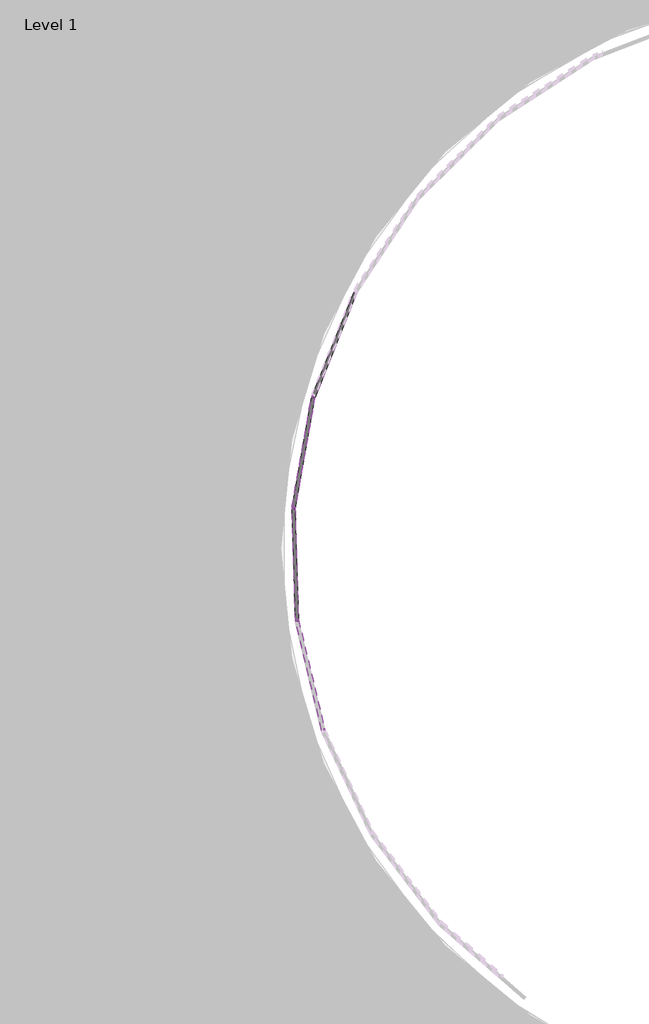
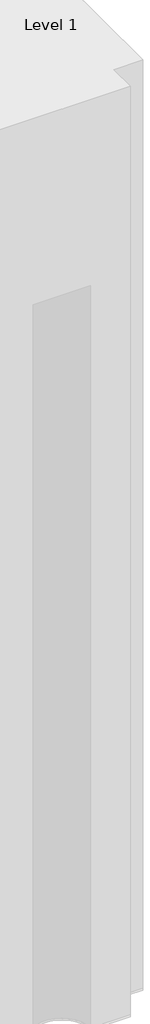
# One storey, part 12 of 20: 123 plates.
"""IFC4 building model written with IfcOpenShell, lengths in millimetres."""

from ifc_helpers import new_model, si_unit, origin, place, context, project, spatial, transform, mapped, element, save
from components import system_panel_glazed_d77d1ebf

model = new_model("IFC4")

# Units and contexts
model_context = context("Model", 3, world=origin())
ifc_project = project(units=[si_unit("LENGTHUNIT", "METRE", prefix="MILLI")], contexts=[model_context])

# Site, building, storey
site = spatial("IfcSite", under=ifc_project)
building = spatial("IfcBuilding", under=site)
storey = spatial("IfcBuildingStorey", under=building, Name="Level 1", Elevation=0.0)

# Plates
placement = place(None, origin())
system_panel_glazed_shape = system_panel_glazed_d77d1ebf(model_context)
element("IfcPlate", 1, ObjectType="System Panel : Glazed", at=placement, inside=storey, context=model_context, shape_type="MappedRepresentation", body=[
    mapped(system_panel_glazed_shape, transform((14455.7045003, -7223.0371257, 48768.0), x_axis=(0.23385091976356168, -0.9722724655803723, 0.0), y_axis=(0.9722724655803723, 0.23385091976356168, 0.0), z_axis=(0.0, 0.0, 1.0))),
])
element("IfcPlate", 2, ObjectType="System Panel : Glazed", at=placement, inside=storey, context=model_context, shape_type="MappedRepresentation", body=[
    mapped(system_panel_glazed_shape, transform((14455.7045003, -7223.0371257, 51816.0), x_axis=(0.23385091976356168, -0.9722724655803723, 0.0), y_axis=(0.9722724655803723, 0.23385091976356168, 0.0), z_axis=(0.0, 0.0, 1.0))),
])
element("IfcPlate", 3, ObjectType="System Panel : Glazed", at=placement, inside=storey, context=model_context, shape_type="MappedRepresentation", body=[
    mapped(system_panel_glazed_shape, transform((14455.7045003, -7223.0371257, 54864.0), x_axis=(0.23385091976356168, -0.9722724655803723, 0.0), y_axis=(0.9722724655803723, 0.23385091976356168, 0.0), z_axis=(0.0, 0.0, 1.0))),
])
element("IfcPlate", 4, ObjectType="System Panel : Glazed", at=placement, inside=storey, context=model_context, shape_type="MappedRepresentation", body=[
    mapped(system_panel_glazed_shape, transform((14455.7045003, -7223.0371257, 57912.0), x_axis=(0.23385091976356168, -0.9722724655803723, 0.0), y_axis=(0.9722724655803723, 0.23385091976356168, 0.0), z_axis=(0.0, 0.0, 1.0))),
])
element("IfcPlate", 5, ObjectType="System Panel : Glazed", at=placement, inside=storey, context=model_context, shape_type="MappedRepresentation", body=[
    mapped(system_panel_glazed_shape, transform((14455.7045003, -7223.0371257, 60960.0), x_axis=(0.23385091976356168, -0.9722724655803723, 0.0), y_axis=(0.9722724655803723, 0.23385091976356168, 0.0), z_axis=(0.0, 0.0, 1.0))),
])
element("IfcPlate", 6, ObjectType="System Panel : Glazed", at=placement, inside=storey, context=model_context, shape_type="MappedRepresentation", body=[
    mapped(system_panel_glazed_shape, transform((14455.7045003, -7223.0371257, 64008.0), x_axis=(0.23385091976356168, -0.9722724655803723, 0.0), y_axis=(0.9722724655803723, 0.23385091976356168, 0.0), z_axis=(0.0, 0.0, 1.0))),
])
element("IfcPlate", 7, ObjectType="System Panel : Glazed", at=placement, inside=storey, context=model_context, shape_type="MappedRepresentation", body=[
    mapped(system_panel_glazed_shape, transform((14455.7045003, -7223.0371257, 67056.0), x_axis=(0.23385091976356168, -0.9722724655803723, 0.0), y_axis=(0.9722724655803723, 0.23385091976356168, 0.0), z_axis=(0.0, 0.0, 1.0))),
])
element("IfcPlate", 8, ObjectType="System Panel : Glazed", at=placement, inside=storey, context=model_context, shape_type="MappedRepresentation", body=[
    mapped(system_panel_glazed_shape, transform((14455.7045003, -7223.0371257, 70104.0), x_axis=(0.23385091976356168, -0.9722724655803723, 0.0), y_axis=(0.9722724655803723, 0.23385091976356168, 0.0), z_axis=(0.0, 0.0, 1.0))),
])
element("IfcPlate", 9, ObjectType="System Panel : Glazed", at=placement, inside=storey, context=model_context, shape_type="MappedRepresentation", body=[
    mapped(system_panel_glazed_shape, transform((14455.7045003, -7223.0371257, 73152.0), x_axis=(0.23385091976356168, -0.9722724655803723, 0.0), y_axis=(0.9722724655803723, 0.23385091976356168, 0.0), z_axis=(0.0, 0.0, 1.0))),
])
element("IfcPlate", 10, ObjectType="System Panel : Glazed", at=placement, inside=storey, context=model_context, shape_type="MappedRepresentation", body=[
    mapped(system_panel_glazed_shape, transform((14455.7045003, -7223.0371257, 76200.0), x_axis=(0.23385091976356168, -0.9722724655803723, 0.0), y_axis=(0.9722724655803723, 0.23385091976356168, 0.0), z_axis=(0.0, 0.0, 1.0))),
])
element("IfcPlate", 11, ObjectType="System Panel : Glazed", at=placement, inside=storey, context=model_context, shape_type="MappedRepresentation", body=[
    mapped(system_panel_glazed_shape, transform((14455.7045003, -7223.0371257, 79248.0), x_axis=(0.23385091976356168, -0.9722724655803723, 0.0), y_axis=(0.9722724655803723, 0.23385091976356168, 0.0), z_axis=(0.0, 0.0, 1.0))),
])
element("IfcPlate", 12, ObjectType="System Panel : Glazed", at=placement, inside=storey, context=model_context, shape_type="MappedRepresentation", body=[
    mapped(system_panel_glazed_shape, transform((14455.7045003, -7223.0371257, 82296.0), x_axis=(0.23385091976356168, -0.9722724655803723, 0.0), y_axis=(0.9722724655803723, 0.23385091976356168, 0.0), z_axis=(0.0, 0.0, 1.0))),
])
element("IfcPlate", 13, ObjectType="System Panel : Glazed", at=placement, inside=storey, context=model_context, shape_type="MappedRepresentation", body=[
    mapped(system_panel_glazed_shape, transform((14455.7045003, -7223.0371257, 85344.0), x_axis=(0.23385091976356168, -0.9722724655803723, 0.0), y_axis=(0.9722724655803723, 0.23385091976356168, 0.0), z_axis=(0.0, 0.0, 1.0))),
])
element("IfcPlate", 14, ObjectType="System Panel : Glazed", at=placement, inside=storey, context=model_context, shape_type="MappedRepresentation", body=[
    mapped(system_panel_glazed_shape, transform((14455.7045003, -7223.0371257, 88392.0), x_axis=(0.23385091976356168, -0.9722724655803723, 0.0), y_axis=(0.9722724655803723, 0.23385091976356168, 0.0), z_axis=(0.0, 0.0, 1.0))),
])
element("IfcPlate", 15, ObjectType="System Panel : Glazed", at=placement, inside=storey, context=model_context, shape_type="MappedRepresentation", body=[
    mapped(system_panel_glazed_shape, transform((14455.7045003, -7223.0371257, 91440.0), x_axis=(0.23385091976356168, -0.9722724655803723, 0.0), y_axis=(0.9722724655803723, 0.23385091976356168, 0.0), z_axis=(0.0, 0.0, 1.0))),
])
element("IfcPlate", 16, ObjectType="System Panel : Glazed", at=placement, inside=storey, context=model_context, shape_type="MappedRepresentation", body=[
    mapped(system_panel_glazed_shape, transform((14455.7045003, -7223.0371257, 94488.0), x_axis=(0.23385091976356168, -0.9722724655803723, 0.0), y_axis=(0.9722724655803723, 0.23385091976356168, 0.0), z_axis=(0.0, 0.0, 1.0))),
])
element("IfcPlate", 17, ObjectType="System Panel : Glazed", at=placement, inside=storey, context=model_context, shape_type="MappedRepresentation", body=[
    mapped(system_panel_glazed_shape, transform((14455.7045003, -7223.0371257, 97536.0), x_axis=(0.23385091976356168, -0.9722724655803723, 0.0), y_axis=(0.9722724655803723, 0.23385091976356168, 0.0), z_axis=(0.0, 0.0, 1.0))),
])
element("IfcPlate", 18, ObjectType="System Panel : Glazed", at=placement, inside=storey, context=model_context, shape_type="MappedRepresentation", body=[
    mapped(system_panel_glazed_shape, transform((14455.7045003, -7223.0371257, 100584.0), x_axis=(0.23385091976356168, -0.9722724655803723, 0.0), y_axis=(0.9722724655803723, 0.23385091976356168, 0.0), z_axis=(0.0, 0.0, 1.0))),
])
element("IfcPlate", 19, ObjectType="System Panel : Glazed", at=placement, inside=storey, context=model_context, shape_type="MappedRepresentation", body=[
    mapped(system_panel_glazed_shape, transform((14335.0257438, -6321.5213272, 0.0), x_axis=(0.03010086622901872, -0.9995468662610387, 0.0), y_axis=(0.9995468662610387, 0.03010086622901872, 0.0), z_axis=(0.0, 0.0, 1.0))),
])
element("IfcPlate", 20, ObjectType="System Panel : Glazed", at=placement, inside=storey, context=model_context, shape_type="MappedRepresentation", body=[
    mapped(system_panel_glazed_shape, transform((14335.0257438, -6321.5213272, 3048.0), x_axis=(0.03010086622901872, -0.9995468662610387, 0.0), y_axis=(0.9995468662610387, 0.03010086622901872, 0.0), z_axis=(0.0, 0.0, 1.0))),
])
element("IfcPlate", 21, ObjectType="System Panel : Glazed", at=placement, inside=storey, context=model_context, shape_type="MappedRepresentation", body=[
    mapped(system_panel_glazed_shape, transform((14335.0257438, -6321.5213272, 6096.0), x_axis=(0.03010086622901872, -0.9995468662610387, 0.0), y_axis=(0.9995468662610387, 0.03010086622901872, 0.0), z_axis=(0.0, 0.0, 1.0))),
])
element("IfcPlate", 22, ObjectType="System Panel : Glazed", at=placement, inside=storey, context=model_context, shape_type="MappedRepresentation", body=[
    mapped(system_panel_glazed_shape, transform((14335.0257438, -6321.5213272, 9144.0), x_axis=(0.03010086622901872, -0.9995468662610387, 0.0), y_axis=(0.9995468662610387, 0.03010086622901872, 0.0), z_axis=(0.0, 0.0, 1.0))),
])
element("IfcPlate", 23, ObjectType="System Panel : Glazed", at=placement, inside=storey, context=model_context, shape_type="MappedRepresentation", body=[
    mapped(system_panel_glazed_shape, transform((14335.0257438, -6321.5213272, 12192.0), x_axis=(0.03010086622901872, -0.9995468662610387, 0.0), y_axis=(0.9995468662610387, 0.03010086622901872, 0.0), z_axis=(0.0, 0.0, 1.0))),
])
element("IfcPlate", 24, ObjectType="System Panel : Glazed", at=placement, inside=storey, context=model_context, shape_type="MappedRepresentation", body=[
    mapped(system_panel_glazed_shape, transform((14335.0257438, -6321.5213272, 15240.0), x_axis=(0.03010086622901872, -0.9995468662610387, 0.0), y_axis=(0.9995468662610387, 0.03010086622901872, 0.0), z_axis=(0.0, 0.0, 1.0))),
])
element("IfcPlate", 25, ObjectType="System Panel : Glazed", at=placement, inside=storey, context=model_context, shape_type="MappedRepresentation", body=[
    mapped(system_panel_glazed_shape, transform((14335.0257438, -6321.5213272, 18288.0), x_axis=(0.03010086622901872, -0.9995468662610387, 0.0), y_axis=(0.9995468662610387, 0.03010086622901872, 0.0), z_axis=(0.0, 0.0, 1.0))),
])
element("IfcPlate", 26, ObjectType="System Panel : Glazed", at=placement, inside=storey, context=model_context, shape_type="MappedRepresentation", body=[
    mapped(system_panel_glazed_shape, transform((14335.0257438, -6321.5213272, 21336.0), x_axis=(0.03010086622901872, -0.9995468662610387, 0.0), y_axis=(0.9995468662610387, 0.03010086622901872, 0.0), z_axis=(0.0, 0.0, 1.0))),
])
element("IfcPlate", 27, ObjectType="System Panel : Glazed", at=placement, inside=storey, context=model_context, shape_type="MappedRepresentation", body=[
    mapped(system_panel_glazed_shape, transform((14335.0257438, -6321.5213272, 24384.0), x_axis=(0.03010086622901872, -0.9995468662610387, 0.0), y_axis=(0.9995468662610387, 0.03010086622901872, 0.0), z_axis=(0.0, 0.0, 1.0))),
])
element("IfcPlate", 28, ObjectType="System Panel : Glazed", at=placement, inside=storey, context=model_context, shape_type="MappedRepresentation", body=[
    mapped(system_panel_glazed_shape, transform((14335.0257438, -6321.5213272, 27432.0), x_axis=(0.03010086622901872, -0.9995468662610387, 0.0), y_axis=(0.9995468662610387, 0.03010086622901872, 0.0), z_axis=(0.0, 0.0, 1.0))),
])
element("IfcPlate", 29, ObjectType="System Panel : Glazed", at=placement, inside=storey, context=model_context, shape_type="MappedRepresentation", body=[
    mapped(system_panel_glazed_shape, transform((14335.0257438, -6321.5213272, 30480.0), x_axis=(0.03010086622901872, -0.9995468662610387, 0.0), y_axis=(0.9995468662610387, 0.03010086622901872, 0.0), z_axis=(0.0, 0.0, 1.0))),
])
element("IfcPlate", 30, ObjectType="System Panel : Glazed", at=placement, inside=storey, context=model_context, shape_type="MappedRepresentation", body=[
    mapped(system_panel_glazed_shape, transform((14335.0257438, -6321.5213272, 33528.0), x_axis=(0.03010086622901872, -0.9995468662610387, 0.0), y_axis=(0.9995468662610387, 0.03010086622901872, 0.0), z_axis=(0.0, 0.0, 1.0))),
])
element("IfcPlate", 31, ObjectType="System Panel : Glazed", at=placement, inside=storey, context=model_context, shape_type="MappedRepresentation", body=[
    mapped(system_panel_glazed_shape, transform((14335.0257438, -6321.5213272, 36576.0), x_axis=(0.03010086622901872, -0.9995468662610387, 0.0), y_axis=(0.9995468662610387, 0.03010086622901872, 0.0), z_axis=(0.0, 0.0, 1.0))),
])
element("IfcPlate", 32, ObjectType="System Panel : Glazed", at=placement, inside=storey, context=model_context, shape_type="MappedRepresentation", body=[
    mapped(system_panel_glazed_shape, transform((14335.0257438, -6321.5213272, 39624.0), x_axis=(0.03010086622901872, -0.9995468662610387, 0.0), y_axis=(0.9995468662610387, 0.03010086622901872, 0.0), z_axis=(0.0, 0.0, 1.0))),
])
element("IfcPlate", 33, ObjectType="System Panel : Glazed", at=placement, inside=storey, context=model_context, shape_type="MappedRepresentation", body=[
    mapped(system_panel_glazed_shape, transform((14335.0257438, -6321.5213272, 42672.0), x_axis=(0.03010086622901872, -0.9995468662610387, 0.0), y_axis=(0.9995468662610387, 0.03010086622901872, 0.0), z_axis=(0.0, 0.0, 1.0))),
])
element("IfcPlate", 34, ObjectType="System Panel : Glazed", at=placement, inside=storey, context=model_context, shape_type="MappedRepresentation", body=[
    mapped(system_panel_glazed_shape, transform((14335.0257438, -6321.5213272, 45720.0), x_axis=(0.03010086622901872, -0.9995468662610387, 0.0), y_axis=(0.9995468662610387, 0.03010086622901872, 0.0), z_axis=(0.0, 0.0, 1.0))),
])
element("IfcPlate", 35, ObjectType="System Panel : Glazed", at=placement, inside=storey, context=model_context, shape_type="MappedRepresentation", body=[
    mapped(system_panel_glazed_shape, transform((14335.0257438, -6321.5213272, 48768.0), x_axis=(0.03010086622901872, -0.9995468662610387, 0.0), y_axis=(0.9995468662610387, 0.03010086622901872, 0.0), z_axis=(0.0, 0.0, 1.0))),
])
element("IfcPlate", 36, ObjectType="System Panel : Glazed", at=placement, inside=storey, context=model_context, shape_type="MappedRepresentation", body=[
    mapped(system_panel_glazed_shape, transform((14335.0257438, -6321.5213272, 51816.0), x_axis=(0.03010086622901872, -0.9995468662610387, 0.0), y_axis=(0.9995468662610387, 0.03010086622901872, 0.0), z_axis=(0.0, 0.0, 1.0))),
])
element("IfcPlate", 37, ObjectType="System Panel : Glazed", at=placement, inside=storey, context=model_context, shape_type="MappedRepresentation", body=[
    mapped(system_panel_glazed_shape, transform((14335.0257438, -6321.5213272, 54864.0), x_axis=(0.03010086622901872, -0.9995468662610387, 0.0), y_axis=(0.9995468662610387, 0.03010086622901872, 0.0), z_axis=(0.0, 0.0, 1.0))),
])
element("IfcPlate", 38, ObjectType="System Panel : Glazed", at=placement, inside=storey, context=model_context, shape_type="MappedRepresentation", body=[
    mapped(system_panel_glazed_shape, transform((14335.0257438, -6321.5213272, 57912.0), x_axis=(0.03010086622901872, -0.9995468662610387, 0.0), y_axis=(0.9995468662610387, 0.03010086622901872, 0.0), z_axis=(0.0, 0.0, 1.0))),
])
element("IfcPlate", 39, ObjectType="System Panel : Glazed", at=placement, inside=storey, context=model_context, shape_type="MappedRepresentation", body=[
    mapped(system_panel_glazed_shape, transform((14335.0257438, -6321.5213272, 60960.0), x_axis=(0.03010086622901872, -0.9995468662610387, 0.0), y_axis=(0.9995468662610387, 0.03010086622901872, 0.0), z_axis=(0.0, 0.0, 1.0))),
])
element("IfcPlate", 40, ObjectType="System Panel : Glazed", at=placement, inside=storey, context=model_context, shape_type="MappedRepresentation", body=[
    mapped(system_panel_glazed_shape, transform((14335.0257438, -6321.5213272, 64008.0), x_axis=(0.03010086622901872, -0.9995468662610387, 0.0), y_axis=(0.9995468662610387, 0.03010086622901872, 0.0), z_axis=(0.0, 0.0, 1.0))),
])
element("IfcPlate", 41, ObjectType="System Panel : Glazed", at=placement, inside=storey, context=model_context, shape_type="MappedRepresentation", body=[
    mapped(system_panel_glazed_shape, transform((14335.0257438, -6321.5213272, 67056.0), x_axis=(0.03010086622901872, -0.9995468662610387, 0.0), y_axis=(0.9995468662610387, 0.03010086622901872, 0.0), z_axis=(0.0, 0.0, 1.0))),
])
element("IfcPlate", 42, ObjectType="System Panel : Glazed", at=placement, inside=storey, context=model_context, shape_type="MappedRepresentation", body=[
    mapped(system_panel_glazed_shape, transform((14335.0257438, -6321.5213272, 70104.0), x_axis=(0.03010086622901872, -0.9995468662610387, 0.0), y_axis=(0.9995468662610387, 0.03010086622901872, 0.0), z_axis=(0.0, 0.0, 1.0))),
])
element("IfcPlate", 43, ObjectType="System Panel : Glazed", at=placement, inside=storey, context=model_context, shape_type="MappedRepresentation", body=[
    mapped(system_panel_glazed_shape, transform((14335.0257438, -6321.5213272, 73152.0), x_axis=(0.03010086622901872, -0.9995468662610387, 0.0), y_axis=(0.9995468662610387, 0.03010086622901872, 0.0), z_axis=(0.0, 0.0, 1.0))),
])
element("IfcPlate", 44, ObjectType="System Panel : Glazed", at=placement, inside=storey, context=model_context, shape_type="MappedRepresentation", body=[
    mapped(system_panel_glazed_shape, transform((14335.0257438, -6321.5213272, 76200.0), x_axis=(0.03010086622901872, -0.9995468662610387, 0.0), y_axis=(0.9995468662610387, 0.03010086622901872, 0.0), z_axis=(0.0, 0.0, 1.0))),
])
element("IfcPlate", 45, ObjectType="System Panel : Glazed", at=placement, inside=storey, context=model_context, shape_type="MappedRepresentation", body=[
    mapped(system_panel_glazed_shape, transform((14335.0257438, -6321.5213272, 79248.0), x_axis=(0.03010086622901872, -0.9995468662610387, 0.0), y_axis=(0.9995468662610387, 0.03010086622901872, 0.0), z_axis=(0.0, 0.0, 1.0))),
])
element("IfcPlate", 46, ObjectType="System Panel : Glazed", at=placement, inside=storey, context=model_context, shape_type="MappedRepresentation", body=[
    mapped(system_panel_glazed_shape, transform((14335.0257438, -6321.5213272, 82296.0), x_axis=(0.03010086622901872, -0.9995468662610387, 0.0), y_axis=(0.9995468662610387, 0.03010086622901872, 0.0), z_axis=(0.0, 0.0, 1.0))),
])
element("IfcPlate", 47, ObjectType="System Panel : Glazed", at=placement, inside=storey, context=model_context, shape_type="MappedRepresentation", body=[
    mapped(system_panel_glazed_shape, transform((14335.0257438, -6321.5213272, 85344.0), x_axis=(0.03010086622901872, -0.9995468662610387, 0.0), y_axis=(0.9995468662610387, 0.03010086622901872, 0.0), z_axis=(0.0, 0.0, 1.0))),
])
element("IfcPlate", 48, ObjectType="System Panel : Glazed", at=placement, inside=storey, context=model_context, shape_type="MappedRepresentation", body=[
    mapped(system_panel_glazed_shape, transform((14335.0257438, -6321.5213272, 88392.0), x_axis=(0.03010086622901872, -0.9995468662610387, 0.0), y_axis=(0.9995468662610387, 0.03010086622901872, 0.0), z_axis=(0.0, 0.0, 1.0))),
])
element("IfcPlate", 49, ObjectType="System Panel : Glazed", at=placement, inside=storey, context=model_context, shape_type="MappedRepresentation", body=[
    mapped(system_panel_glazed_shape, transform((14335.0257438, -6321.5213272, 91440.0), x_axis=(0.03010086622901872, -0.9995468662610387, 0.0), y_axis=(0.9995468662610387, 0.03010086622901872, 0.0), z_axis=(0.0, 0.0, 1.0))),
])
element("IfcPlate", 50, ObjectType="System Panel : Glazed", at=placement, inside=storey, context=model_context, shape_type="MappedRepresentation", body=[
    mapped(system_panel_glazed_shape, transform((14335.0257438, -6321.5213272, 94488.0), x_axis=(0.03010086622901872, -0.9995468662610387, 0.0), y_axis=(0.9995468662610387, 0.03010086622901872, 0.0), z_axis=(0.0, 0.0, 1.0))),
])
element("IfcPlate", 51, ObjectType="System Panel : Glazed", at=placement, inside=storey, context=model_context, shape_type="MappedRepresentation", body=[
    mapped(system_panel_glazed_shape, transform((14335.0257438, -6321.5213272, 97536.0), x_axis=(0.03010086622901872, -0.9995468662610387, 0.0), y_axis=(0.9995468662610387, 0.03010086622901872, 0.0), z_axis=(0.0, 0.0, 1.0))),
])
element("IfcPlate", 52, ObjectType="System Panel : Glazed", at=placement, inside=storey, context=model_context, shape_type="MappedRepresentation", body=[
    mapped(system_panel_glazed_shape, transform((14335.0257438, -6321.5213272, 100584.0), x_axis=(0.03010086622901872, -0.9995468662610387, 0.0), y_axis=(0.9995468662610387, 0.03010086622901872, 0.0), z_axis=(0.0, 0.0, 1.0))),
])
element("IfcPlate", 53, ObjectType="System Panel : Glazed", at=placement, inside=storey, context=model_context, shape_type="MappedRepresentation", body=[
    mapped(system_panel_glazed_shape, transform((14401.2375954, -5414.3774092, 0.0), x_axis=(-0.1749211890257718, -0.9845824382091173, 0.0), y_axis=(0.9845824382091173, -0.1749211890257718, 0.0), z_axis=(0.0, 0.0, 1.0))),
])
element("IfcPlate", 54, ObjectType="System Panel : Glazed", at=placement, inside=storey, context=model_context, shape_type="MappedRepresentation", body=[
    mapped(system_panel_glazed_shape, transform((14401.2375954, -5414.3774092, 3048.0), x_axis=(-0.1749211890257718, -0.9845824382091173, 0.0), y_axis=(0.9845824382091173, -0.1749211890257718, 0.0), z_axis=(0.0, 0.0, 1.0))),
])
element("IfcPlate", 55, ObjectType="System Panel : Glazed", at=placement, inside=storey, context=model_context, shape_type="MappedRepresentation", body=[
    mapped(system_panel_glazed_shape, transform((14401.2375954, -5414.3774092, 6096.0), x_axis=(-0.1749211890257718, -0.9845824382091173, 0.0), y_axis=(0.9845824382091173, -0.1749211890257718, 0.0), z_axis=(0.0, 0.0, 1.0))),
])
element("IfcPlate", 56, ObjectType="System Panel : Glazed", at=placement, inside=storey, context=model_context, shape_type="MappedRepresentation", body=[
    mapped(system_panel_glazed_shape, transform((14401.2375954, -5414.3774092, 9144.0), x_axis=(-0.1749211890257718, -0.9845824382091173, 0.0), y_axis=(0.9845824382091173, -0.1749211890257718, 0.0), z_axis=(0.0, 0.0, 1.0))),
])
element("IfcPlate", 57, ObjectType="System Panel : Glazed", at=placement, inside=storey, context=model_context, shape_type="MappedRepresentation", body=[
    mapped(system_panel_glazed_shape, transform((14401.2375954, -5414.3774092, 12192.0), x_axis=(-0.1749211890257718, -0.9845824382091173, 0.0), y_axis=(0.9845824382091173, -0.1749211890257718, 0.0), z_axis=(0.0, 0.0, 1.0))),
])
element("IfcPlate", 58, ObjectType="System Panel : Glazed", at=placement, inside=storey, context=model_context, shape_type="MappedRepresentation", body=[
    mapped(system_panel_glazed_shape, transform((14401.2375954, -5414.3774092, 15240.0), x_axis=(-0.1749211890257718, -0.9845824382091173, 0.0), y_axis=(0.9845824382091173, -0.1749211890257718, 0.0), z_axis=(0.0, 0.0, 1.0))),
])
element("IfcPlate", 59, ObjectType="System Panel : Glazed", at=placement, inside=storey, context=model_context, shape_type="MappedRepresentation", body=[
    mapped(system_panel_glazed_shape, transform((14401.2375954, -5414.3774092, 18288.0), x_axis=(-0.17492118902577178, -0.9845824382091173, 0.0), y_axis=(0.9845824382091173, -0.17492118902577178, 0.0), z_axis=(0.0, 0.0, 1.0))),
])
element("IfcPlate", 60, ObjectType="System Panel : Glazed", at=placement, inside=storey, context=model_context, shape_type="MappedRepresentation", body=[
    mapped(system_panel_glazed_shape, transform((14401.2375954, -5414.3774092, 21336.0), x_axis=(-0.1749211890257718, -0.9845824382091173, 0.0), y_axis=(0.9845824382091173, -0.1749211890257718, 0.0), z_axis=(0.0, 0.0, 1.0))),
])
element("IfcPlate", 61, ObjectType="System Panel : Glazed", at=placement, inside=storey, context=model_context, shape_type="MappedRepresentation", body=[
    mapped(system_panel_glazed_shape, transform((14401.2375954, -5414.3774092, 24384.0), x_axis=(-0.1749211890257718, -0.9845824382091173, 0.0), y_axis=(0.9845824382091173, -0.1749211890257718, 0.0), z_axis=(0.0, 0.0, 1.0))),
])
element("IfcPlate", 62, ObjectType="System Panel : Glazed", at=placement, inside=storey, context=model_context, shape_type="MappedRepresentation", body=[
    mapped(system_panel_glazed_shape, transform((14401.2375954, -5414.3774092, 27432.0), x_axis=(-0.1749211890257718, -0.9845824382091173, 0.0), y_axis=(0.9845824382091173, -0.1749211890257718, 0.0), z_axis=(0.0, 0.0, 1.0))),
])
element("IfcPlate", 63, ObjectType="System Panel : Glazed", at=placement, inside=storey, context=model_context, shape_type="MappedRepresentation", body=[
    mapped(system_panel_glazed_shape, transform((14401.2375954, -5414.3774092, 30480.0), x_axis=(-0.1749211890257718, -0.9845824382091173, 0.0), y_axis=(0.9845824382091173, -0.1749211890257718, 0.0), z_axis=(0.0, 0.0, 1.0))),
])
element("IfcPlate", 64, ObjectType="System Panel : Glazed", at=placement, inside=storey, context=model_context, shape_type="MappedRepresentation", body=[
    mapped(system_panel_glazed_shape, transform((14401.2375954, -5414.3774092, 33528.0), x_axis=(-0.1749211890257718, -0.9845824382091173, 0.0), y_axis=(0.9845824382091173, -0.1749211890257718, 0.0), z_axis=(0.0, 0.0, 1.0))),
])
element("IfcPlate", 65, ObjectType="System Panel : Glazed", at=placement, inside=storey, context=model_context, shape_type="MappedRepresentation", body=[
    mapped(system_panel_glazed_shape, transform((14401.2375954, -5414.3774092, 36576.0), x_axis=(-0.1749211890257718, -0.9845824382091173, 0.0), y_axis=(0.9845824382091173, -0.1749211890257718, 0.0), z_axis=(0.0, 0.0, 1.0))),
])
element("IfcPlate", 66, ObjectType="System Panel : Glazed", at=placement, inside=storey, context=model_context, shape_type="MappedRepresentation", body=[
    mapped(system_panel_glazed_shape, transform((14401.2375954, -5414.3774092, 39624.0), x_axis=(-0.1749211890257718, -0.9845824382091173, 0.0), y_axis=(0.9845824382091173, -0.1749211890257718, 0.0), z_axis=(0.0, 0.0, 1.0))),
])
element("IfcPlate", 67, ObjectType="System Panel : Glazed", at=placement, inside=storey, context=model_context, shape_type="MappedRepresentation", body=[
    mapped(system_panel_glazed_shape, transform((14401.2375954, -5414.3774092, 42672.0), x_axis=(-0.1749211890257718, -0.9845824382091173, 0.0), y_axis=(0.9845824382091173, -0.1749211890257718, 0.0), z_axis=(0.0, 0.0, 1.0))),
])
element("IfcPlate", 68, ObjectType="System Panel : Glazed", at=placement, inside=storey, context=model_context, shape_type="MappedRepresentation", body=[
    mapped(system_panel_glazed_shape, transform((14401.2375954, -5414.3774092, 45720.0), x_axis=(-0.1749211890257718, -0.9845824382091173, 0.0), y_axis=(0.9845824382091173, -0.1749211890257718, 0.0), z_axis=(0.0, 0.0, 1.0))),
])
element("IfcPlate", 69, ObjectType="System Panel : Glazed", at=placement, inside=storey, context=model_context, shape_type="MappedRepresentation", body=[
    mapped(system_panel_glazed_shape, transform((14401.2375954, -5414.3774092, 48768.0), x_axis=(-0.1749211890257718, -0.9845824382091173, 0.0), y_axis=(0.9845824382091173, -0.1749211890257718, 0.0), z_axis=(0.0, 0.0, 1.0))),
])
element("IfcPlate", 70, ObjectType="System Panel : Glazed", at=placement, inside=storey, context=model_context, shape_type="MappedRepresentation", body=[
    mapped(system_panel_glazed_shape, transform((14401.2375954, -5414.3774092, 51816.0), x_axis=(-0.1749211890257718, -0.9845824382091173, 0.0), y_axis=(0.9845824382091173, -0.1749211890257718, 0.0), z_axis=(0.0, 0.0, 1.0))),
])
element("IfcPlate", 71, ObjectType="System Panel : Glazed", at=placement, inside=storey, context=model_context, shape_type="MappedRepresentation", body=[
    mapped(system_panel_glazed_shape, transform((14401.2375954, -5414.3774092, 54864.0), x_axis=(-0.1749211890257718, -0.9845824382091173, 0.0), y_axis=(0.9845824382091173, -0.1749211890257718, 0.0), z_axis=(0.0, 0.0, 1.0))),
])
element("IfcPlate", 72, ObjectType="System Panel : Glazed", at=placement, inside=storey, context=model_context, shape_type="MappedRepresentation", body=[
    mapped(system_panel_glazed_shape, transform((14401.2375954, -5414.3774092, 57912.0), x_axis=(-0.1749211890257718, -0.9845824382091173, 0.0), y_axis=(0.9845824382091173, -0.1749211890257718, 0.0), z_axis=(0.0, 0.0, 1.0))),
])
element("IfcPlate", 73, ObjectType="System Panel : Glazed", at=placement, inside=storey, context=model_context, shape_type="MappedRepresentation", body=[
    mapped(system_panel_glazed_shape, transform((14401.2375954, -5414.3774092, 60960.0), x_axis=(-0.1749211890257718, -0.9845824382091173, 0.0), y_axis=(0.9845824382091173, -0.1749211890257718, 0.0), z_axis=(0.0, 0.0, 1.0))),
])
element("IfcPlate", 74, ObjectType="System Panel : Glazed", at=placement, inside=storey, context=model_context, shape_type="MappedRepresentation", body=[
    mapped(system_panel_glazed_shape, transform((14401.2375954, -5414.3774092, 64008.0), x_axis=(-0.1749211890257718, -0.9845824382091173, 0.0), y_axis=(0.9845824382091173, -0.1749211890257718, 0.0), z_axis=(0.0, 0.0, 1.0))),
])
element("IfcPlate", 75, ObjectType="System Panel : Glazed", at=placement, inside=storey, context=model_context, shape_type="MappedRepresentation", body=[
    mapped(system_panel_glazed_shape, transform((14401.2375954, -5414.3774092, 67056.0), x_axis=(-0.1749211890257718, -0.9845824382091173, 0.0), y_axis=(0.9845824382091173, -0.1749211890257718, 0.0), z_axis=(0.0, 0.0, 1.0))),
])
element("IfcPlate", 76, ObjectType="System Panel : Glazed", at=placement, inside=storey, context=model_context, shape_type="MappedRepresentation", body=[
    mapped(system_panel_glazed_shape, transform((14401.2375954, -5414.3774092, 70104.0), x_axis=(-0.1749211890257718, -0.9845824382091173, 0.0), y_axis=(0.9845824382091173, -0.1749211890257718, 0.0), z_axis=(0.0, 0.0, 1.0))),
])
element("IfcPlate", 77, ObjectType="System Panel : Glazed", at=placement, inside=storey, context=model_context, shape_type="MappedRepresentation", body=[
    mapped(system_panel_glazed_shape, transform((14401.2375954, -5414.3774092, 73152.0), x_axis=(-0.1749211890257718, -0.9845824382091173, 0.0), y_axis=(0.9845824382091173, -0.1749211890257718, 0.0), z_axis=(0.0, 0.0, 1.0))),
])
element("IfcPlate", 78, ObjectType="System Panel : Glazed", at=placement, inside=storey, context=model_context, shape_type="MappedRepresentation", body=[
    mapped(system_panel_glazed_shape, transform((14401.2375954, -5414.3774092, 76200.0), x_axis=(-0.1749211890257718, -0.9845824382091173, 0.0), y_axis=(0.9845824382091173, -0.1749211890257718, 0.0), z_axis=(0.0, 0.0, 1.0))),
])
element("IfcPlate", 79, ObjectType="System Panel : Glazed", at=placement, inside=storey, context=model_context, shape_type="MappedRepresentation", body=[
    mapped(system_panel_glazed_shape, transform((14401.2375954, -5414.3774092, 79248.0), x_axis=(-0.1749211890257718, -0.9845824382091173, 0.0), y_axis=(0.9845824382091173, -0.1749211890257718, 0.0), z_axis=(0.0, 0.0, 1.0))),
])
element("IfcPlate", 80, ObjectType="System Panel : Glazed", at=placement, inside=storey, context=model_context, shape_type="MappedRepresentation", body=[
    mapped(system_panel_glazed_shape, transform((14401.2375954, -5414.3774092, 82296.0), x_axis=(-0.1749211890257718, -0.9845824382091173, 0.0), y_axis=(0.9845824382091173, -0.1749211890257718, 0.0), z_axis=(0.0, 0.0, 1.0))),
])
element("IfcPlate", 81, ObjectType="System Panel : Glazed", at=placement, inside=storey, context=model_context, shape_type="MappedRepresentation", body=[
    mapped(system_panel_glazed_shape, transform((14401.2375954, -5414.3774092, 85344.0), x_axis=(-0.1749211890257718, -0.9845824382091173, 0.0), y_axis=(0.9845824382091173, -0.1749211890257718, 0.0), z_axis=(0.0, 0.0, 1.0))),
])
element("IfcPlate", 82, ObjectType="System Panel : Glazed", at=placement, inside=storey, context=model_context, shape_type="MappedRepresentation", body=[
    mapped(system_panel_glazed_shape, transform((14401.2375954, -5414.3774092, 88392.0), x_axis=(-0.1749211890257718, -0.9845824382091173, 0.0), y_axis=(0.9845824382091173, -0.1749211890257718, 0.0), z_axis=(0.0, 0.0, 1.0))),
])
element("IfcPlate", 83, ObjectType="System Panel : Glazed", at=placement, inside=storey, context=model_context, shape_type="MappedRepresentation", body=[
    mapped(system_panel_glazed_shape, transform((14401.2375954, -5414.3774092, 91440.0), x_axis=(-0.1749211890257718, -0.9845824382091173, 0.0), y_axis=(0.9845824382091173, -0.1749211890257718, 0.0), z_axis=(0.0, 0.0, 1.0))),
])
element("IfcPlate", 84, ObjectType="System Panel : Glazed", at=placement, inside=storey, context=model_context, shape_type="MappedRepresentation", body=[
    mapped(system_panel_glazed_shape, transform((14401.2375954, -5414.3774092, 94488.0), x_axis=(-0.1749211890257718, -0.9845824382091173, 0.0), y_axis=(0.9845824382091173, -0.1749211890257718, 0.0), z_axis=(0.0, 0.0, 1.0))),
])
element("IfcPlate", 85, ObjectType="System Panel : Glazed", at=placement, inside=storey, context=model_context, shape_type="MappedRepresentation", body=[
    mapped(system_panel_glazed_shape, transform((14401.2375954, -5414.3774092, 97536.0), x_axis=(-0.1749211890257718, -0.9845824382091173, 0.0), y_axis=(0.9845824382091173, -0.1749211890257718, 0.0), z_axis=(0.0, 0.0, 1.0))),
])
element("IfcPlate", 86, ObjectType="System Panel : Glazed", at=placement, inside=storey, context=model_context, shape_type="MappedRepresentation", body=[
    mapped(system_panel_glazed_shape, transform((14401.2375954, -5414.3774092, 100584.0), x_axis=(-0.1749211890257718, -0.9845824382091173, 0.0), y_axis=(0.9845824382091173, -0.1749211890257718, 0.0), z_axis=(0.0, 0.0, 1.0))),
])
element("IfcPlate", 87, ObjectType="System Panel : Glazed", at=placement, inside=storey, context=model_context, shape_type="MappedRepresentation", body=[
    mapped(system_panel_glazed_shape, transform((14651.5420762, -4539.9394388, 0.0), x_axis=(-0.37255142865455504, -0.9280115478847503, 0.0), y_axis=(0.9280115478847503, -0.37255142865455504, 0.0), z_axis=(0.0, 0.0, 1.0))),
])
element("IfcPlate", 88, ObjectType="System Panel : Glazed", at=placement, inside=storey, context=model_context, shape_type="MappedRepresentation", body=[
    mapped(system_panel_glazed_shape, transform((14651.5420762, -4539.9394388, 3048.0), x_axis=(-0.37255142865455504, -0.9280115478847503, 0.0), y_axis=(0.9280115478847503, -0.37255142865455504, 0.0), z_axis=(0.0, 0.0, 1.0))),
])
element("IfcPlate", 89, ObjectType="System Panel : Glazed", at=placement, inside=storey, context=model_context, shape_type="MappedRepresentation", body=[
    mapped(system_panel_glazed_shape, transform((14651.5420762, -4539.9394388, 6096.0), x_axis=(-0.37255142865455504, -0.9280115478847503, 0.0), y_axis=(0.9280115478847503, -0.37255142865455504, 0.0), z_axis=(0.0, 0.0, 1.0))),
])
element("IfcPlate", 90, ObjectType="System Panel : Glazed", at=placement, inside=storey, context=model_context, shape_type="MappedRepresentation", body=[
    mapped(system_panel_glazed_shape, transform((14651.5420762, -4539.9394388, 9144.0), x_axis=(-0.37255142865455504, -0.9280115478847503, 0.0), y_axis=(0.9280115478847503, -0.37255142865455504, 0.0), z_axis=(0.0, 0.0, 1.0))),
])
element("IfcPlate", 91, ObjectType="System Panel : Glazed", at=placement, inside=storey, context=model_context, shape_type="MappedRepresentation", body=[
    mapped(system_panel_glazed_shape, transform((14651.5420762, -4539.9394388, 12192.0), x_axis=(-0.37255142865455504, -0.9280115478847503, 0.0), y_axis=(0.9280115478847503, -0.37255142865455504, 0.0), z_axis=(0.0, 0.0, 1.0))),
])
element("IfcPlate", 92, ObjectType="System Panel : Glazed", at=placement, inside=storey, context=model_context, shape_type="MappedRepresentation", body=[
    mapped(system_panel_glazed_shape, transform((14651.5420762, -4539.9394388, 15240.0), x_axis=(-0.37255142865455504, -0.9280115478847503, 0.0), y_axis=(0.9280115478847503, -0.37255142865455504, 0.0), z_axis=(0.0, 0.0, 1.0))),
])
element("IfcPlate", 93, ObjectType="System Panel : Glazed", at=placement, inside=storey, context=model_context, shape_type="MappedRepresentation", body=[
    mapped(system_panel_glazed_shape, transform((14651.5420762, -4539.9394388, 18288.0), x_axis=(-0.372551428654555, -0.9280115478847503, 0.0), y_axis=(0.9280115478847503, -0.372551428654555, 0.0), z_axis=(0.0, 0.0, 1.0))),
])
element("IfcPlate", 94, ObjectType="System Panel : Glazed", at=placement, inside=storey, context=model_context, shape_type="MappedRepresentation", body=[
    mapped(system_panel_glazed_shape, transform((14651.5420762, -4539.9394388, 21336.0), x_axis=(-0.37255142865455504, -0.9280115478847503, 0.0), y_axis=(0.9280115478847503, -0.37255142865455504, 0.0), z_axis=(0.0, 0.0, 1.0))),
])
element("IfcPlate", 95, ObjectType="System Panel : Glazed", at=placement, inside=storey, context=model_context, shape_type="MappedRepresentation", body=[
    mapped(system_panel_glazed_shape, transform((14651.5420762, -4539.9394388, 24384.0), x_axis=(-0.37255142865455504, -0.9280115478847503, 0.0), y_axis=(0.9280115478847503, -0.37255142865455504, 0.0), z_axis=(0.0, 0.0, 1.0))),
])
element("IfcPlate", 96, ObjectType="System Panel : Glazed", at=placement, inside=storey, context=model_context, shape_type="MappedRepresentation", body=[
    mapped(system_panel_glazed_shape, transform((14651.5420762, -4539.9394388, 27432.0), x_axis=(-0.37255142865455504, -0.9280115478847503, 0.0), y_axis=(0.9280115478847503, -0.37255142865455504, 0.0), z_axis=(0.0, 0.0, 1.0))),
])
element("IfcPlate", 97, ObjectType="System Panel : Glazed", at=placement, inside=storey, context=model_context, shape_type="MappedRepresentation", body=[
    mapped(system_panel_glazed_shape, transform((14651.5420762, -4539.9394388, 30480.0), x_axis=(-0.37255142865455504, -0.9280115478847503, 0.0), y_axis=(0.9280115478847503, -0.37255142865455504, 0.0), z_axis=(0.0, 0.0, 1.0))),
])
element("IfcPlate", 98, ObjectType="System Panel : Glazed", at=placement, inside=storey, context=model_context, shape_type="MappedRepresentation", body=[
    mapped(system_panel_glazed_shape, transform((14651.5420762, -4539.9394388, 33528.0), x_axis=(-0.37255142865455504, -0.9280115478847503, 0.0), y_axis=(0.9280115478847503, -0.37255142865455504, 0.0), z_axis=(0.0, 0.0, 1.0))),
])
element("IfcPlate", 99, ObjectType="System Panel : Glazed", at=placement, inside=storey, context=model_context, shape_type="MappedRepresentation", body=[
    mapped(system_panel_glazed_shape, transform((14651.5420762, -4539.9394388, 36576.0), x_axis=(-0.37255142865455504, -0.9280115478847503, 0.0), y_axis=(0.9280115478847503, -0.37255142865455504, 0.0), z_axis=(0.0, 0.0, 1.0))),
])
element("IfcPlate", 100, ObjectType="System Panel : Glazed", at=placement, inside=storey, context=model_context, shape_type="MappedRepresentation", body=[
    mapped(system_panel_glazed_shape, transform((14651.5420762, -4539.9394388, 39624.0), x_axis=(-0.37255142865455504, -0.9280115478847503, 0.0), y_axis=(0.9280115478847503, -0.37255142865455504, 0.0), z_axis=(0.0, 0.0, 1.0))),
])
element("IfcPlate", 101, ObjectType="System Panel : Glazed", at=placement, inside=storey, context=model_context, shape_type="MappedRepresentation", body=[
    mapped(system_panel_glazed_shape, transform((14651.5420762, -4539.9394388, 42672.0), x_axis=(-0.37255142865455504, -0.9280115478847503, 0.0), y_axis=(0.9280115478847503, -0.37255142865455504, 0.0), z_axis=(0.0, 0.0, 1.0))),
])
element("IfcPlate", 102, ObjectType="System Panel : Glazed", at=placement, inside=storey, context=model_context, shape_type="MappedRepresentation", body=[
    mapped(system_panel_glazed_shape, transform((14651.5420762, -4539.9394388, 45720.0), x_axis=(-0.37255142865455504, -0.9280115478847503, 0.0), y_axis=(0.9280115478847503, -0.37255142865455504, 0.0), z_axis=(0.0, 0.0, 1.0))),
])
element("IfcPlate", 103, ObjectType="System Panel : Glazed", at=placement, inside=storey, context=model_context, shape_type="MappedRepresentation", body=[
    mapped(system_panel_glazed_shape, transform((14651.5420762, -4539.9394388, 48768.0), x_axis=(-0.37255142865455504, -0.9280115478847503, 0.0), y_axis=(0.9280115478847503, -0.37255142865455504, 0.0), z_axis=(0.0, 0.0, 1.0))),
])
element("IfcPlate", 104, ObjectType="System Panel : Glazed", at=placement, inside=storey, context=model_context, shape_type="MappedRepresentation", body=[
    mapped(system_panel_glazed_shape, transform((14651.5420762, -4539.9394388, 51816.0), x_axis=(-0.37255142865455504, -0.9280115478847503, 0.0), y_axis=(0.9280115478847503, -0.37255142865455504, 0.0), z_axis=(0.0, 0.0, 1.0))),
])
element("IfcPlate", 105, ObjectType="System Panel : Glazed", at=placement, inside=storey, context=model_context, shape_type="MappedRepresentation", body=[
    mapped(system_panel_glazed_shape, transform((14651.5420762, -4539.9394388, 54864.0), x_axis=(-0.37255142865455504, -0.9280115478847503, 0.0), y_axis=(0.9280115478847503, -0.37255142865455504, 0.0), z_axis=(0.0, 0.0, 1.0))),
])
element("IfcPlate", 106, ObjectType="System Panel : Glazed", at=placement, inside=storey, context=model_context, shape_type="MappedRepresentation", body=[
    mapped(system_panel_glazed_shape, transform((14335.0257438, -6321.5213272, 103632.0), x_axis=(0.03010086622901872, -0.9995468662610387, 0.0), y_axis=(0.9995468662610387, 0.03010086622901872, 0.0), z_axis=(0.0, 0.0, 1.0))),
])
element("IfcPlate", 107, ObjectType="System Panel : Glazed", at=placement, inside=storey, context=model_context, shape_type="MappedRepresentation", body=[
    mapped(system_panel_glazed_shape, transform((14401.2375954, -5414.3774092, 103632.0), x_axis=(-0.1749211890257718, -0.9845824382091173, 0.0), y_axis=(0.9845824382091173, -0.1749211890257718, 0.0), z_axis=(0.0, 0.0, 1.0))),
])
element("IfcPlate", 108, ObjectType="System Panel : Glazed", at=placement, inside=storey, context=model_context, shape_type="MappedRepresentation", body=[
    mapped(system_panel_glazed_shape, transform((14455.7045003, -7223.0371257, 103632.0), x_axis=(0.23385091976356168, -0.9722724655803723, 0.0), y_axis=(0.9722724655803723, 0.23385091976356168, 0.0), z_axis=(0.0, 0.0, 1.0))),
])
element("IfcPlate", 109, ObjectType="System Panel : Glazed", at=placement, inside=storey, context=model_context, shape_type="MappedRepresentation", body=[
    mapped(system_panel_glazed_shape, transform((14335.0257438, -6321.5213272, 106680.0), x_axis=(0.03010086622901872, -0.9995468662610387, 0.0), y_axis=(0.9995468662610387, 0.03010086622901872, 0.0), z_axis=(0.0, 0.0, 1.0))),
])
element("IfcPlate", 110, ObjectType="System Panel : Glazed", at=placement, inside=storey, context=model_context, shape_type="MappedRepresentation", body=[
    mapped(system_panel_glazed_shape, transform((14401.2375954, -5414.3774092, 106680.0), x_axis=(-0.1749211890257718, -0.9845824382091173, 0.0), y_axis=(0.9845824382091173, -0.1749211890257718, 0.0), z_axis=(0.0, 0.0, 1.0))),
])
element("IfcPlate", 111, ObjectType="System Panel : Glazed", at=placement, inside=storey, context=model_context, shape_type="MappedRepresentation", body=[
    mapped(system_panel_glazed_shape, transform((14455.7045003, -7223.0371257, 106680.0), x_axis=(0.23385091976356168, -0.9722724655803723, 0.0), y_axis=(0.9722724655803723, 0.23385091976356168, 0.0), z_axis=(0.0, 0.0, 1.0))),
])
element("IfcPlate", 112, ObjectType="System Panel : Glazed", at=placement, inside=storey, context=model_context, shape_type="MappedRepresentation", body=[
    mapped(system_panel_glazed_shape, transform((14335.0257438, -6321.5213272, 109728.0), x_axis=(0.03010086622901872, -0.9995468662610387, 0.0), y_axis=(0.9995468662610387, 0.03010086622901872, 0.0), z_axis=(0.0, 0.0, 1.0))),
])
element("IfcPlate", 113, ObjectType="System Panel : Glazed", at=placement, inside=storey, context=model_context, shape_type="MappedRepresentation", body=[
    mapped(system_panel_glazed_shape, transform((14401.2375954, -5414.3774092, 109728.0), x_axis=(-0.1749211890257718, -0.9845824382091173, 0.0), y_axis=(0.9845824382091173, -0.1749211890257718, 0.0), z_axis=(0.0, 0.0, 1.0))),
])
element("IfcPlate", 114, ObjectType="System Panel : Glazed", at=placement, inside=storey, context=model_context, shape_type="MappedRepresentation", body=[
    mapped(system_panel_glazed_shape, transform((14455.7045003, -7223.0371257, 109728.0), x_axis=(0.23385091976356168, -0.9722724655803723, 0.0), y_axis=(0.9722724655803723, 0.23385091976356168, 0.0), z_axis=(0.0, 0.0, 1.0))),
])
element("IfcPlate", 115, ObjectType="System Panel : Glazed", at=placement, inside=storey, context=model_context, shape_type="MappedRepresentation", body=[
    mapped(system_panel_glazed_shape, transform((14335.0257438, -6321.5213272, 112776.0), x_axis=(0.03010086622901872, -0.9995468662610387, 0.0), y_axis=(0.9995468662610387, 0.03010086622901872, 0.0), z_axis=(0.0, 0.0, 1.0))),
])
element("IfcPlate", 116, ObjectType="System Panel : Glazed", at=placement, inside=storey, context=model_context, shape_type="MappedRepresentation", body=[
    mapped(system_panel_glazed_shape, transform((14401.2375954, -5414.3774092, 112776.0), x_axis=(-0.1749211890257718, -0.9845824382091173, 0.0), y_axis=(0.9845824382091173, -0.1749211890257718, 0.0), z_axis=(0.0, 0.0, 1.0))),
])
element("IfcPlate", 117, ObjectType="System Panel : Glazed", at=placement, inside=storey, context=model_context, shape_type="MappedRepresentation", body=[
    mapped(system_panel_glazed_shape, transform((14455.7045003, -7223.0371257, 112776.0), x_axis=(0.23385091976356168, -0.9722724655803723, 0.0), y_axis=(0.9722724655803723, 0.23385091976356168, 0.0), z_axis=(0.0, 0.0, 1.0))),
])
element("IfcPlate", 118, ObjectType="System Panel : Glazed", at=placement, inside=storey, context=model_context, shape_type="MappedRepresentation", body=[
    mapped(system_panel_glazed_shape, transform((14335.0257438, -6321.5213272, 115824.0), x_axis=(0.03010086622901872, -0.9995468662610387, 0.0), y_axis=(0.9995468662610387, 0.03010086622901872, 0.0), z_axis=(0.0, 0.0, 1.0))),
])
element("IfcPlate", 119, ObjectType="System Panel : Glazed", at=placement, inside=storey, context=model_context, shape_type="MappedRepresentation", body=[
    mapped(system_panel_glazed_shape, transform((14401.2375954, -5414.3774092, 115824.0), x_axis=(-0.1749211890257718, -0.9845824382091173, 0.0), y_axis=(0.9845824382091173, -0.1749211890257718, 0.0), z_axis=(0.0, 0.0, 1.0))),
])
element("IfcPlate", 120, ObjectType="System Panel : Glazed", at=placement, inside=storey, context=model_context, shape_type="MappedRepresentation", body=[
    mapped(system_panel_glazed_shape, transform((14455.7045003, -7223.0371257, 115824.0), x_axis=(0.23385091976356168, -0.9722724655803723, 0.0), y_axis=(0.9722724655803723, 0.23385091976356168, 0.0), z_axis=(0.0, 0.0, 1.0))),
])
element("IfcPlate", 121, ObjectType="System Panel : Glazed", at=placement, inside=storey, context=model_context, shape_type="MappedRepresentation", body=[
    mapped(system_panel_glazed_shape, transform((14335.0257438, -6321.5213272, 118872.0), x_axis=(0.03010086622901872, -0.9995468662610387, 0.0), y_axis=(0.9995468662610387, 0.03010086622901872, 0.0), z_axis=(0.0, 0.0, 1.0))),
])
element("IfcPlate", 122, ObjectType="System Panel : Glazed", at=placement, inside=storey, context=model_context, shape_type="MappedRepresentation", body=[
    mapped(system_panel_glazed_shape, transform((14401.2375954, -5414.3774092, 118872.0), x_axis=(-0.1749211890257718, -0.9845824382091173, 0.0), y_axis=(0.9845824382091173, -0.1749211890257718, 0.0), z_axis=(0.0, 0.0, 1.0))),
])
element("IfcPlate", 123, ObjectType="System Panel : Glazed", at=placement, inside=storey, context=model_context, shape_type="MappedRepresentation", body=[
    mapped(system_panel_glazed_shape, transform((14455.7045003, -7223.0371257, 118872.0), x_axis=(0.23385091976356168, -0.9722724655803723, 0.0), y_axis=(0.9722724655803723, 0.23385091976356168, 0.0), z_axis=(0.0, 0.0, 1.0))),
])

save(model, "model.ifc")
